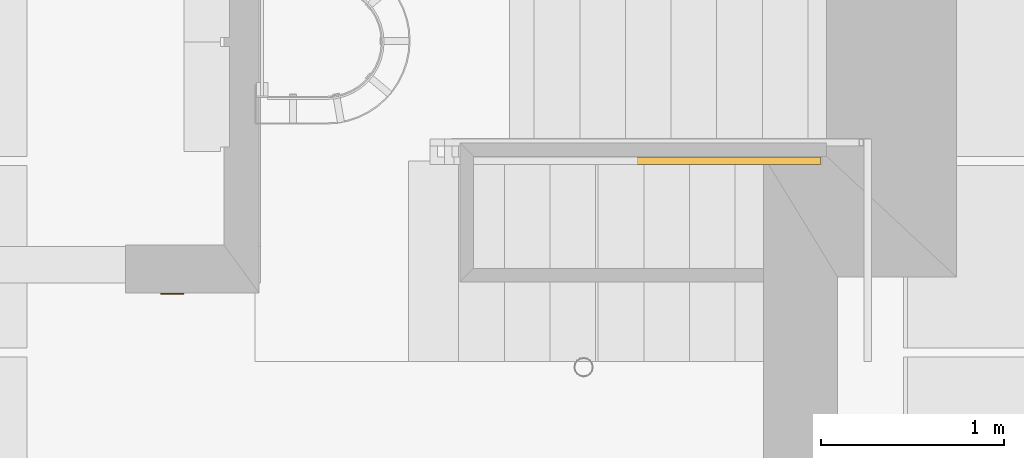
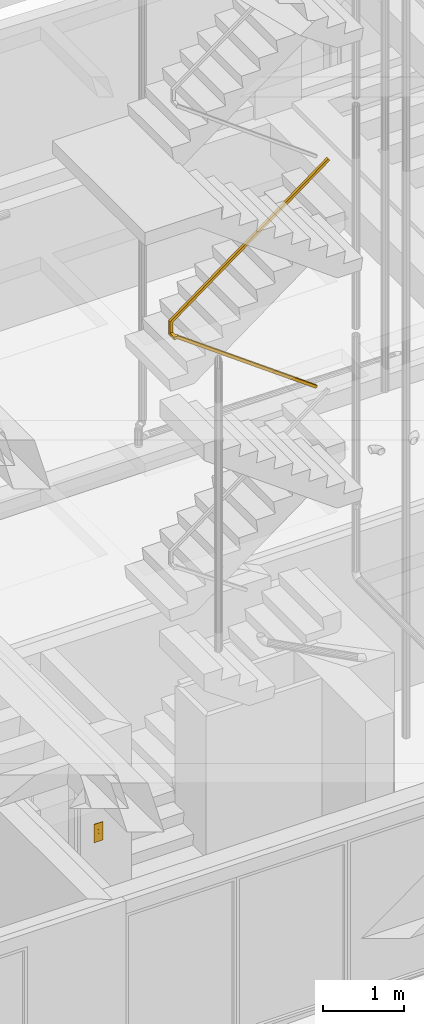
# One storey, part 29 of 108: 1 door, 1 railing.
"""IFC2X3 building model written with IfcOpenShell, lengths in metres."""

from ifc_helpers import new_model, entity, si_unit, converted_unit, derived_unit, money_unit, direction, frame, origin_with_axes, place, context, subcontext, project, spatial, faceted_brep, material, type_object, element, save


model = new_model("IFC2X3")

# Units and contexts
model_context = context("Model", 3, precision=1e-05, world=origin_with_axes(), true_north=direction((0.0, 1.0)))
body_context = subcontext(model_context, "Body", "Model", "MODEL_VIEW", scale=1.0)
ifc_project = project(units=[si_unit("LENGTHUNIT", "METRE"), si_unit("AREAUNIT", "SQUARE_METRE"), si_unit("VOLUMEUNIT", "CUBIC_METRE"), si_unit("ABSORBEDDOSEUNIT", "GRAY"), si_unit("AMOUNTOFSUBSTANCEUNIT", "MOLE"), si_unit("DOSEEQUIVALENTUNIT", "SIEVERT"), si_unit("ELECTRICCAPACITANCEUNIT", "FARAD"), si_unit("ELECTRICCHARGEUNIT", "COULOMB"), si_unit("ELECTRICCONDUCTANCEUNIT", "SIEMENS"), si_unit("ELECTRICCURRENTUNIT", "AMPERE"), si_unit("ELECTRICRESISTANCEUNIT", "OHM"), si_unit("ELECTRICVOLTAGEUNIT", "VOLT"), si_unit("ENERGYUNIT", "JOULE"), si_unit("FORCEUNIT", "NEWTON"), si_unit("FREQUENCYUNIT", "HERTZ"), si_unit("ILLUMINANCEUNIT", "LUX"), si_unit("INDUCTANCEUNIT", "HENRY"), si_unit("LUMINOUSFLUXUNIT", "LUMEN"), si_unit("LUMINOUSINTENSITYUNIT", "CANDELA"), si_unit("MAGNETICFLUXDENSITYUNIT", "TESLA"), si_unit("MAGNETICFLUXUNIT", "WEBER"), si_unit("MASSUNIT", "GRAM"), converted_unit("PLANEANGLEUNIT", "degree", entity("IfcReal", 0.0174532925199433), si_unit("PLANEANGLEUNIT", "RADIAN"), dimensions=[0, 0, 0, 0, 0, 0, 0]), si_unit("POWERUNIT", "WATT"), si_unit("PRESSUREUNIT", "PASCAL"), si_unit("RADIOACTIVITYUNIT", "BECQUEREL"), si_unit("SOLIDANGLEUNIT", "STERADIAN"), si_unit("THERMODYNAMICTEMPERATUREUNIT", "KELVIN"), si_unit("TIMEUNIT", "SECOND"), derived_unit("ACCELERATIONUNIT", [(si_unit("LENGTHUNIT", "METRE"), 1), (si_unit("TIMEUNIT", "SECOND"), -2)]), derived_unit("ANGULARVELOCITYUNIT", [(converted_unit("PLANEANGLEUNIT", "degree", entity("IfcReal", 0.0174532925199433), si_unit("PLANEANGLEUNIT", "RADIAN"), dimensions=[0, 0, 0, 0, 0, 0, 0]), 1), (si_unit("TIMEUNIT", "SECOND"), -1)]), derived_unit("CURVATUREUNIT", [(converted_unit("PLANEANGLEUNIT", "degree", entity("IfcReal", 0.0174532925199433), si_unit("PLANEANGLEUNIT", "RADIAN"), dimensions=[0, 0, 0, 0, 0, 0, 0]), 1), (si_unit("LENGTHUNIT", "METRE"), -1)]), derived_unit("DYNAMICVISCOSITYUNIT", [(si_unit("PRESSUREUNIT", "PASCAL"), 1), (si_unit("TIMEUNIT", "SECOND"), 1)]), derived_unit("HEATFLUXDENSITYUNIT", [(si_unit("POWERUNIT", "WATT"), 1), (si_unit("LENGTHUNIT", "METRE"), -2)]), derived_unit("HEATINGVALUEUNIT", [(si_unit("ENERGYUNIT", "JOULE"), 1), (si_unit("MASSUNIT", "GRAM"), -1)]), derived_unit("INTEGERCOUNTRATEUNIT", [(si_unit("TIMEUNIT", "SECOND"), -1)]), derived_unit("IONCONCENTRATIONUNIT", [(si_unit("MASSUNIT", "GRAM"), 1), (si_unit("VOLUMEUNIT", "CUBIC_METRE"), -1)]), derived_unit("ISOTHERMALMOISTURECAPACITYUNIT", [(si_unit("VOLUMEUNIT", "CUBIC_METRE"), 1), (si_unit("MASSUNIT", "GRAM"), -1)]), derived_unit("KINEMATICVISCOSITYUNIT", [(si_unit("AREAUNIT", "SQUARE_METRE"), 1), (si_unit("TIMEUNIT", "SECOND"), -1)]), derived_unit("LINEARFORCEUNIT", [(si_unit("FORCEUNIT", "NEWTON"), 1), (si_unit("LENGTHUNIT", "METRE"), -1)]), derived_unit("LINEARMOMENTUNIT", [(si_unit("FORCEUNIT", "NEWTON"), 1), (si_unit("LENGTHUNIT", "METRE"), -1)]), derived_unit("LINEARSTIFFNESSUNIT", [(si_unit("FORCEUNIT", "NEWTON"), 1), (si_unit("LENGTHUNIT", "METRE"), -1)]), derived_unit("LINEARVELOCITYUNIT", [(si_unit("LENGTHUNIT", "METRE"), 1), (si_unit("TIMEUNIT", "SECOND"), -1)]), derived_unit("LUMINOUSINTENSITYDISTRIBUTIONUNIT", [(si_unit("LUMINOUSINTENSITYUNIT", "CANDELA"), 1), (si_unit("LUMINOUSFLUXUNIT", "LUMEN"), -1)]), derived_unit("MASSDENSITYUNIT", [(si_unit("MASSUNIT", "GRAM"), 1), (si_unit("VOLUMEUNIT", "CUBIC_METRE"), -1)]), derived_unit("MASSFLOWRATEUNIT", [(si_unit("MASSUNIT", "GRAM"), 1), (si_unit("TIMEUNIT", "SECOND"), -1)]), derived_unit("MASSPERLENGTHUNIT", [(si_unit("MASSUNIT", "GRAM"), 1), (si_unit("LENGTHUNIT", "METRE"), -1)]), derived_unit("MODULUSOFELASTICITYUNIT", [(si_unit("FORCEUNIT", "NEWTON"), 1), (si_unit("AREAUNIT", "SQUARE_METRE"), -1)]), derived_unit("MODULUSOFLINEARSUBGRADEREACTIONUNIT", [(si_unit("FORCEUNIT", "NEWTON"), 1), (si_unit("LENGTHUNIT", "METRE"), -2)]), derived_unit("MODULUSOFROTATIONALSUBGRADEREACTIONUNIT", [(si_unit("FORCEUNIT", "NEWTON"), 1), (si_unit("LENGTHUNIT", "METRE"), 1)]), derived_unit("MODULUSOFSUBGRADEREACTIONUNIT", [(si_unit("FORCEUNIT", "NEWTON"), 1), (si_unit("VOLUMEUNIT", "CUBIC_METRE"), -1)]), derived_unit("MOISTUREDIFFUSIVITYUNIT", [(si_unit("VOLUMEUNIT", "CUBIC_METRE"), 1), (si_unit("TIMEUNIT", "SECOND"), -1)]), derived_unit("MOLECULARWEIGHTUNIT", [(si_unit("MASSUNIT", "GRAM"), 1), (si_unit("AMOUNTOFSUBSTANCEUNIT", "MOLE"), -1)]), derived_unit("PLANARFORCEUNIT", [(si_unit("FORCEUNIT", "NEWTON"), 1), (si_unit("LENGTHUNIT", "METRE"), -2)]), derived_unit("ROTATIONALFREQUENCYUNIT", [(si_unit("TIMEUNIT", "SECOND"), -1)]), derived_unit("ROTATIONALMASSUNIT", [(si_unit("MASSUNIT", "GRAM"), 1), (si_unit("LENGTHUNIT", "METRE"), 2)]), derived_unit("ROTATIONALSTIFFNESSUNIT", [(si_unit("FORCEUNIT", "NEWTON"), 1), (si_unit("LENGTHUNIT", "METRE"), 1), (converted_unit("PLANEANGLEUNIT", "degree", entity("IfcReal", 0.0174532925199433), si_unit("PLANEANGLEUNIT", "RADIAN"), dimensions=[0, 0, 0, 0, 0, 0, 0]), -1)]), derived_unit("SECTIONAREAINTEGRALUNIT", [(si_unit("LENGTHUNIT", "METRE"), 5)]), derived_unit("SECTIONMODULUSUNIT", [(si_unit("LENGTHUNIT", "METRE"), 3)]), derived_unit("SHEARMODULUSUNIT", [(si_unit("FORCEUNIT", "NEWTON"), 1), (si_unit("AREAUNIT", "SQUARE_METRE"), -1)]), derived_unit("SOUNDPOWERUNIT", [(si_unit("ENERGYUNIT", "JOULE"), 1), (si_unit("TIMEUNIT", "SECOND"), -1)]), derived_unit("SPECIFICHEATCAPACITYUNIT", [(si_unit("FORCEUNIT", "NEWTON"), 1), (si_unit("MASSUNIT", "GRAM"), -1), (si_unit("THERMODYNAMICTEMPERATUREUNIT", "KELVIN"), -1)]), derived_unit("TEMPERATUREGRADIENTUNIT", [(si_unit("THERMODYNAMICTEMPERATUREUNIT", "KELVIN"), 1), (si_unit("LENGTHUNIT", "METRE"), -1)]), derived_unit("THERMALADMITTANCEUNIT", [(si_unit("POWERUNIT", "WATT"), 1), (si_unit("AREAUNIT", "SQUARE_METRE"), -1), (si_unit("THERMODYNAMICTEMPERATUREUNIT", "KELVIN"), -1)]), derived_unit("THERMALCONDUCTANCEUNIT", [(si_unit("POWERUNIT", "WATT"), 1), (si_unit("LENGTHUNIT", "METRE"), -1), (si_unit("THERMODYNAMICTEMPERATUREUNIT", "KELVIN"), -1)]), derived_unit("THERMALEXPANSIONCOEFFICIENTUNIT", [(si_unit("THERMODYNAMICTEMPERATUREUNIT", "KELVIN"), -1)]), derived_unit("THERMALRESISTANCEUNIT", [(si_unit("AREAUNIT", "SQUARE_METRE"), 1), (si_unit("POWERUNIT", "WATT"), -1)]), derived_unit("THERMALTRANSMITTANCEUNIT", [(si_unit("POWERUNIT", "WATT"), 1), (si_unit("AREAUNIT", "SQUARE_METRE"), -1), (si_unit("THERMODYNAMICTEMPERATUREUNIT", "KELVIN"), -1)]), derived_unit("TORQUEUNIT", [(si_unit("FORCEUNIT", "NEWTON"), 1), (si_unit("LENGTHUNIT", "METRE"), 1)]), derived_unit("VAPORPERMEABILITYUNIT", [(si_unit("MASSUNIT", "GRAM"), 1), (si_unit("TIMEUNIT", "SECOND"), -1)]), derived_unit("VOLUMETRICFLOWRATEUNIT", [(si_unit("VOLUMEUNIT", "CUBIC_METRE"), 1), (si_unit("TIMEUNIT", "SECOND"), -1)]), derived_unit("WARPINGCONSTANTUNIT", [(si_unit("LENGTHUNIT", "METRE"), 6)]), derived_unit("WARPINGMOMENTUNIT", [(si_unit("FORCEUNIT", "NEWTON"), 1), (si_unit("LENGTHUNIT", "METRE"), 2)]), money_unit("GBP")], contexts=[model_context])

# Site, building, storey, space
site_placement = place(None, origin_with_axes())
site = spatial("IfcSite", under=ifc_project, at=site_placement, Name="Site", CompositionType="ELEMENT")
building_placement = place(site_placement, origin_with_axes())
building = spatial("IfcBuilding", under=site, at=building_placement, Name="Building01", CompositionType="ELEMENT")
storey_placement = place(building_placement, origin_with_axes())
storey = spatial("IfcBuildingStorey", under=building, at=storey_placement, Name="GF", CompositionType="ELEMENT", Elevation=0.0)
space_placement = place(storey_placement, frame((9.419099, 6.725761, 0.0), z_axis=(0.0, 0.0, 1.0), x_axis=(0.0, -1.0, 0.0)))
space = spatial("IfcSpace", under=storey, at=space_placement, Name="ENTRANCE", CompositionType="ELEMENT", InteriorOrExteriorSpace="NOTDEFINED")

# Door
ifc_material_1 = material(Name="A_BSUK_Doors")
door_style = type_object("IfcDoorStyle", Name="A-ElevatorCallButton", ConstructionType="USERDEFINED", ParameterTakesPrecedence=False, Sizeable=False)
door_placement = place(storey_placement, frame((10.783958, 6.725761, 1.0), z_axis=(0.0, 0.0, 1.0), x_axis=(1.0, 0.0, 0.0)))
element("IfcDoor", 1, at=door_placement, inside=space, type_object=door_style, material=ifc_material_1, Name="A-ElevatorCallButton", ObjectType="A-ElevatorCallButton", OverallHeight=0.2794, OverallWidth=0.127, context=body_context, shape_type="Brep", body=[
    faceted_brep([(0.0, 0.0, 0.2794), (0.127, 0.0, 0.2794), (0.127, 0.0, 0.0), (0.0, 0.0, 0.0), (0.0, -0.00635, 0.0), (0.127, -0.00635, 0.0), (0.127, -0.00635, 0.2794), (0.0, -0.00635, 0.2794)], [[[0, 1, 2, 3]], [[4, 3, 2, 5]], [[4, 5, 6, 7]], [[5, 2, 1, 6]], [[6, 1, 0, 7]], [[7, 0, 3, 4]]]),
    faceted_brep([(0.068085, -0.00635, 0.099282), (0.063204, -0.00635, 0.098428), (0.058368, -0.00635, 0.099508), (0.054313, -0.00635, 0.102357), (0.051657, -0.00635, 0.10654), (0.050803, -0.00635, 0.111421), (0.051883, -0.00635, 0.116257), (0.054732, -0.00635, 0.120312), (0.058915, -0.00635, 0.122968), (0.063796, -0.00635, 0.123822), (0.068632, -0.00635, 0.122742), (0.072687, -0.00635, 0.119893), (0.075343, -0.00635, 0.11571), (0.076197, -0.00635, 0.110829), (0.075117, -0.00635, 0.105993), (0.072268, -0.00635, 0.101938), (0.054732, -0.009525, 0.120312), (0.058915, -0.009525, 0.122968), (0.063796, -0.009525, 0.123822), (0.068632, -0.009525, 0.122742), (0.072687, -0.009525, 0.119893), (0.075343, -0.009525, 0.11571), (0.076197, -0.009525, 0.110829), (0.075117, -0.009525, 0.105993), (0.072268, -0.009525, 0.101938), (0.068085, -0.009525, 0.099282), (0.063204, -0.009525, 0.098428), (0.058368, -0.009525, 0.099508), (0.054313, -0.009525, 0.102357), (0.051657, -0.009525, 0.10654), (0.050803, -0.009525, 0.111421), (0.051883, -0.009525, 0.116257)], [[[0, 1, 2, 3, 4, 5, 6, 7, 8, 9, 10, 11, 12, 13, 14, 15]], [[7, 16, 17, 8]], [[8, 17, 18, 9]], [[9, 18, 19, 10]], [[10, 19, 20, 11]], [[11, 20, 21, 12]], [[12, 21, 22, 13]], [[13, 22, 23, 14]], [[14, 23, 24, 15]], [[15, 24, 25, 0]], [[0, 25, 26, 1]], [[1, 26, 27, 2]], [[2, 27, 28, 3]], [[3, 28, 29, 4]], [[4, 29, 30, 5]], [[5, 30, 31, 6]], [[6, 31, 16, 7]], [[23, 22, 21, 20, 19, 18, 17, 16, 31, 30, 29, 28, 27, 26, 25, 24]]]),
    faceted_brep([(0.073576, -0.00635, 0.160544), (0.06985, -0.00635, 0.157276), (0.065158, -0.00635, 0.155684), (0.060213, -0.00635, 0.156008), (0.055769, -0.00635, 0.158199), (0.052501, -0.00635, 0.161925), (0.050909, -0.00635, 0.166617), (0.051233, -0.00635, 0.171562), (0.053424, -0.00635, 0.176006), (0.05715, -0.00635, 0.179274), (0.061842, -0.00635, 0.180866), (0.066787, -0.00635, 0.180542), (0.071231, -0.00635, 0.178351), (0.074499, -0.00635, 0.174625), (0.076091, -0.00635, 0.169933), (0.075767, -0.00635, 0.164988), (0.051233, -0.009525, 0.171562), (0.053424, -0.009525, 0.176006), (0.05715, -0.009525, 0.179274), (0.061842, -0.009525, 0.180866), (0.066787, -0.009525, 0.180542), (0.071231, -0.009525, 0.178351), (0.074499, -0.009525, 0.174625), (0.076091, -0.009525, 0.169933), (0.075767, -0.009525, 0.164988), (0.073576, -0.009525, 0.160544), (0.06985, -0.009525, 0.157276), (0.065158, -0.009525, 0.155684), (0.060213, -0.009525, 0.156008), (0.055769, -0.009525, 0.158199), (0.052501, -0.009525, 0.161925), (0.050909, -0.009525, 0.166617)], [[[0, 1, 2, 3, 4, 5, 6, 7, 8, 9, 10, 11, 12, 13, 14, 15]], [[7, 16, 17, 8]], [[8, 17, 18, 9]], [[9, 18, 19, 10]], [[10, 19, 20, 11]], [[11, 20, 21, 12]], [[12, 21, 22, 13]], [[13, 22, 23, 14]], [[14, 23, 24, 15]], [[15, 24, 25, 0]], [[0, 25, 26, 1]], [[1, 26, 27, 2]], [[2, 27, 28, 3]], [[3, 28, 29, 4]], [[4, 29, 30, 5]], [[5, 30, 31, 6]], [[6, 31, 16, 7]], [[23, 22, 21, 20, 19, 18, 17, 16, 31, 30, 29, 28, 27, 26, 25, 24]]]),
])

# Railing
ifc_material_2 = material(Name="A_BSUK_Steel_Miscellaneous")
railing_type = type_object("IfcRailingType", Name="A-Handrail-900mm", PredefinedType="NOTDEFINED")
railing_placement = place(storey_placement, frame((14.609584, 7.55, 8.64), z_axis=(0.0, 0.0, 1.0), x_axis=(1.0, 0.0, 0.0)))
element("IfcRailing", 2, at=railing_placement, inside=storey, type_object=railing_type, material=ifc_material_2, Name="A-Handrail-900mm", ObjectType="A-Handrail-900mm", PredefinedType="HANDRAIL", context=body_context, shape_type="Brep", body=[
    faceted_brep([(-0.726206, -0.02, 0.312846), (-0.75, -0.02, 0.345), (-0.75, 0.02, 0.345), (-0.726206, 0.02, 0.312846), (-0.728586, -0.016, 0.316062), (-0.728586, 0.016, 0.316062), (-0.747621, 0.016, 0.341785), (-0.747621, -0.016, 0.341785), (0.023794, 0.02, 0.867846), (0.0, 0.02, 0.9), (0.0, -0.02, 0.9), (0.023794, -0.02, 0.867846), (0.021414, -0.016, 0.871062), (0.002379, -0.016, 0.896785), (0.002379, 0.016, 0.896785), (0.021414, 0.016, 0.871062)], [[[0, 1, 2, 3], [4, 5, 6, 7]], [[8, 9, 10, 11], [12, 13, 14, 15]], [[11, 0, 3, 8]], [[10, 1, 0, 11]], [[9, 2, 1, 10]], [[8, 3, 2, 9]], [[15, 5, 4, 12]], [[12, 4, 7, 13]], [[13, 7, 6, 14]], [[14, 6, 5, 15]]]),
    faceted_brep([(-1.476206, -0.02, -0.242154), (-1.5, -0.02, -0.21), (-1.5, 0.02, -0.21), (-1.476206, 0.02, -0.242154), (-1.478586, -0.016, -0.238938), (-1.478586, 0.016, -0.238938), (-1.497621, 0.016, -0.213215), (-1.497621, -0.016, -0.213215), (-0.726206, 0.02, 0.312846), (-0.75, 0.02, 0.345), (-0.75, -0.02, 0.345), (-0.726206, -0.02, 0.312846), (-0.728586, -0.016, 0.316062), (-0.747621, -0.016, 0.341785), (-0.747621, 0.016, 0.341785), (-0.728586, 0.016, 0.316062)], [[[0, 1, 2, 3], [4, 5, 6, 7]], [[8, 9, 10, 11], [12, 13, 14, 15]], [[11, 0, 3, 8]], [[10, 1, 0, 11]], [[9, 2, 1, 10]], [[8, 3, 2, 9]], [[15, 5, 4, 12]], [[12, 4, 7, 13]], [[13, 7, 6, 14]], [[14, 6, 5, 15]]]),
    faceted_brep([(-1.476206, 0.02, -0.242154), (-1.5, 0.02, -0.21), (-1.5, -0.02, -0.21), (-1.476206, -0.02, -0.242154), (-1.478586, -0.016, -0.238938), (-1.497621, -0.016, -0.213215), (-1.497621, 0.016, -0.213215), (-1.478586, 0.016, -0.238938), (-2.23, -0.02, -0.799961), (-2.23, 0.02, -0.799961), (-2.27, -0.02, -0.7798), (-2.27, 0.02, -0.7798), (-2.234, -0.016, -0.797945), (-2.234, 0.016, -0.797945), (-2.266, -0.016, -0.781816), (-2.266, 0.016, -0.781816)], [[[0, 1, 2, 3], [4, 5, 6, 7]], [[8, 9, 0, 3]], [[10, 8, 3, 2]], [[11, 10, 2, 1]], [[9, 11, 1, 0]], [[12, 4, 7, 13]], [[14, 5, 4, 12]], [[15, 6, 5, 14]], [[13, 7, 6, 15]], [[8, 10, 11, 9], [12, 13, 15, 14]]]),
    faceted_brep([(-2.27, 0.02, -0.7798), (-2.23, 0.02, -0.799961), (-2.23, 0.02, -0.99), (-2.27, 0.02, -0.99), (-2.23, -0.02, -0.95), (-2.23, -0.02, -0.799961), (-2.27, -0.02, -0.95), (-2.27, -0.02, -0.7798), (-2.234, 0.016, -0.986), (-2.234, 0.016, -0.797945), (-2.266, 0.016, -0.781816), (-2.266, 0.016, -0.986), (-2.234, -0.016, -0.954), (-2.234, -0.016, -0.797945), (-2.266, -0.016, -0.954), (-2.266, -0.016, -0.781816)], [[[0, 1, 2, 3]], [[4, 2, 1, 5]], [[6, 4, 5, 7]], [[3, 6, 7, 0]], [[8, 9, 10, 11]], [[12, 13, 9, 8]], [[14, 15, 13, 12]], [[11, 10, 15, 14]], [[0, 7, 5, 1], [10, 9, 13, 15]], [[2, 4, 6, 3], [8, 11, 14, 12]]]),
    faceted_brep([(-2.23, -0.08, -0.99), (-2.27, -0.12, -0.99), (-2.27, 0.02, -0.99), (-2.23, 0.02, -0.99), (-2.23, -0.08, -0.95), (-2.23, -0.02, -0.95), (-2.27, -0.12, -0.95), (-2.27, -0.02, -0.95), (-2.234, -0.084, -0.986), (-2.234, 0.016, -0.986), (-2.266, 0.016, -0.986), (-2.266, -0.116, -0.986), (-2.234, -0.084, -0.954), (-2.234, -0.016, -0.954), (-2.266, -0.116, -0.954), (-2.266, -0.016, -0.954)], [[[0, 1, 2, 3]], [[4, 0, 3, 5]], [[6, 4, 5, 7]], [[7, 2, 1, 6]], [[8, 9, 10, 11]], [[12, 13, 9, 8]], [[14, 15, 13, 12]], [[11, 10, 15, 14]], [[2, 7, 5, 3], [10, 9, 13, 15]], [[0, 4, 6, 1], [8, 11, 14, 12]]]),
    faceted_brep([(-2.224951, -0.08, -0.99), (-2.224951, -0.12, -0.99), (-2.27, -0.12, -0.99), (-2.23, -0.08, -0.99), (-2.21192, -0.08, -0.95), (-2.23, -0.08, -0.95), (-2.21192, -0.12, -0.95), (-2.27, -0.12, -0.95), (-2.223648, -0.084, -0.986), (-2.234, -0.084, -0.986), (-2.266, -0.116, -0.986), (-2.223648, -0.116, -0.986), (-2.213223, -0.084, -0.954), (-2.234, -0.084, -0.954), (-2.213223, -0.116, -0.954), (-2.266, -0.116, -0.954)], [[[0, 1, 2, 3]], [[4, 0, 3, 5]], [[6, 4, 5, 7]], [[1, 6, 7, 2]], [[8, 9, 10, 11]], [[12, 13, 9, 8]], [[14, 15, 13, 12]], [[11, 10, 15, 14]], [[2, 7, 5, 3], [10, 9, 13, 15]], [[0, 4, 6, 1], [8, 11, 14, 12]]]),
    faceted_brep([(-0.235481, -0.079988, -2.440102), (-0.21192, -0.079987, -2.407778), (-0.21192, -0.119987, -2.407778), (-0.235481, -0.119988, -2.440102), (-0.233125, -0.083988, -2.43687), (-0.233125, -0.115988, -2.43687), (-0.214276, -0.115987, -2.41101), (-0.214276, -0.083987, -2.41101), (-2.224951, -0.12, -0.99), (-2.224951, -0.08, -0.99), (-2.21192, -0.08, -0.95), (-2.21192, -0.12, -0.95), (-2.223648, -0.116, -0.986), (-2.223648, -0.084, -0.986), (-2.213223, -0.084, -0.954), (-2.213223, -0.116, -0.954)], [[[0, 1, 2, 3], [4, 5, 6, 7]], [[8, 9, 0, 3]], [[9, 10, 1, 0]], [[10, 11, 2, 1]], [[11, 8, 3, 2]], [[12, 5, 4, 13]], [[13, 4, 7, 14]], [[14, 7, 6, 15]], [[15, 6, 5, 12]], [[8, 11, 10, 9], [12, 13, 14, 15]]]),
])

save(model, "model.ifc")
